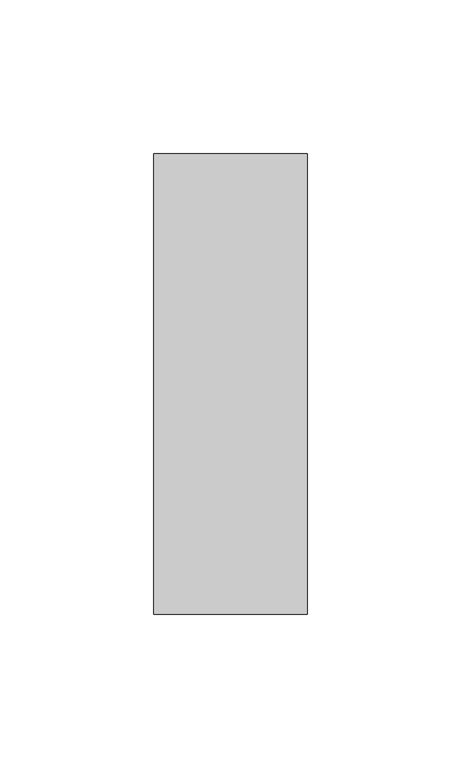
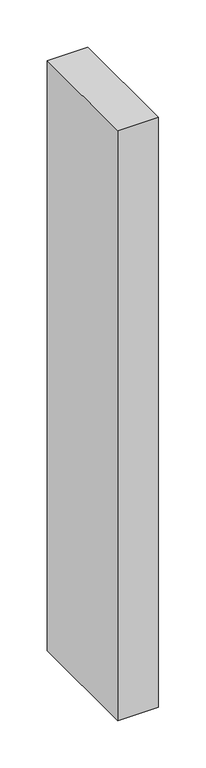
"""IFC4 building model written with IfcOpenShell, lengths in millimetres: member geometry, Прямоугольный импост : 50 x 150 мм."""

from ifc_helpers import new_model, si_unit, frame, origin, place, context, project, spatial, polyline, outline, extrude, source, transform, mapped, element, save


def member_6e5941eb(model_context):
    return source(origin(), model_context, "Body", "SweptSolid", [
        extrude(outline(polyline([(25.0, 75.0), (25.0, -75.0), (-25.0, -75.0), (-25.0, 75.0), (25.0, 75.0)])), frame((0.0, 0.0, -765.0), z_axis=(0.0, 0.0, 1.0), x_axis=(1.0, 0.0, 0.0)), (0.0, 0.0, 1.0), 765.0),
    ])


if __name__ == "__main__":
    model = new_model("IFC4")
    model_context = context("Model", 3, world=origin())
    ifc_project = project(units=[si_unit("LENGTHUNIT", "METRE", prefix="MILLI")], contexts=[model_context])
    site = spatial("IfcSite", under=ifc_project)
    building = spatial("IfcBuilding", under=site)
    placement = place(None, origin())
    member_shape = member_6e5941eb(model_context)
    element("IfcMember", 1, ObjectType="Прямоугольный импост : 50 x 150 мм", at=placement, inside=building, context=model_context, shape_type="MappedRepresentation", body=[
        mapped(member_shape, transform((0.0, 0.0, 0.0), x_axis=(1.0, 0.0, 0.0), y_axis=(0.0, 1.0, 0.0), z_axis=(0.0, 0.0, 1.0))),
    ])
    save(model, "model.ifc")
